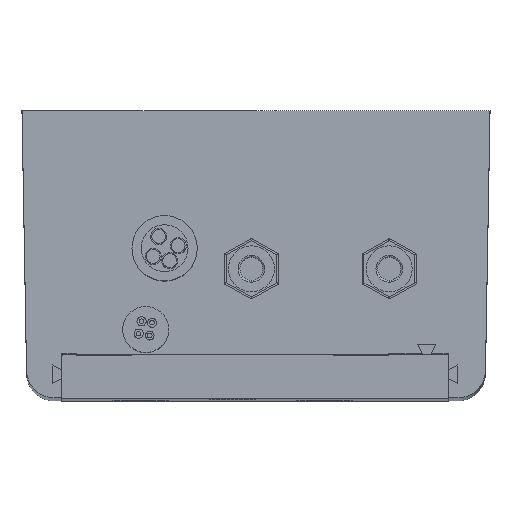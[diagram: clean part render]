
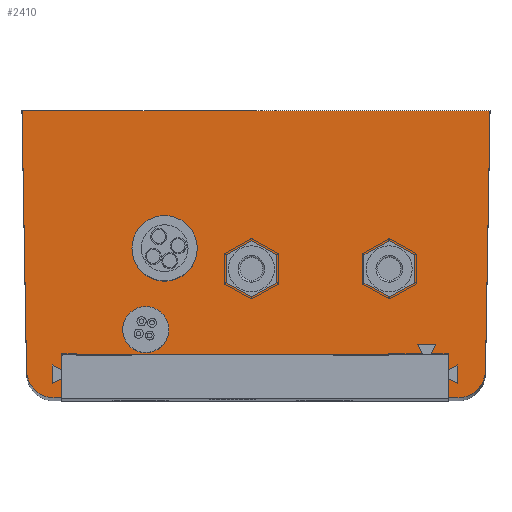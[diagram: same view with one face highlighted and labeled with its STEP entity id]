
A CAD part, top view. The second image highlights one B-rep face of the part: STEP entity #2410.
In plain terms, the highlighted planar face has unit normal (0, 0, 1).
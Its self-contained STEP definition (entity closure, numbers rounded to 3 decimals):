
#38 = VECTOR ( 'NONE', #9448, 1000. ) ;
#225 = EDGE_CURVE ( 'NONE', #5677, #5905, #685, .T. ) ;
#250 = DIRECTION ( 'NONE',  ( 1., 0., 0. ) ) ;
#341 = AXIS2_PLACEMENT_3D ( 'NONE', #7417, #2482, #1576 ) ;
#685 = CIRCLE ( 'NONE', #6017, 3. ) ;
#877 = VERTEX_POINT ( 'NONE', #2202 ) ;
#942 = VECTOR ( 'NONE', #4667, 1000. ) ;
#1166 = VERTEX_POINT ( 'NONE', #8055 ) ;
#1212 = VECTOR ( 'NONE', #5982, 1000. ) ;
#1361 = VECTOR ( 'NONE', #12371, 1000. ) ;
#1576 = DIRECTION ( 'NONE',  ( 1., 0., 0. ) ) ;
#1709 = AXIS2_PLACEMENT_3D ( 'NONE', #6570, #8424, #12338 ) ;
#1922 = DIRECTION ( 'NONE',  ( 1., 0., 0. ) ) ;
#2009 = LINE ( 'NONE', #10515, #942 ) ;
#2111 = VECTOR ( 'NONE', #250, 1000. ) ;
#2129 = EDGE_CURVE ( 'NONE', #8731, #1166, #11290, .T. ) ;
#2136 = AXIS2_PLACEMENT_3D ( 'NONE', #8527, #7619, #1922 ) ;
#2181 = EDGE_CURVE ( 'NONE', #5905, #877, #2009, .T. ) ;
#2202 = CARTESIAN_POINT ( 'NONE',  ( 26.025, 19.031, 0. ) ) ;
#2332 = EDGE_CURVE ( 'NONE', #5396, #10631, #12351, .T. ) ;
#2410 = ADVANCED_FACE ( 'NONE', ( #7919, #5937, #5630 ), #9229, .T. ) ;
#2461 = AXIS2_PLACEMENT_3D ( 'NONE', #6417, #7408, #11405 ) ;
#2466 = LINE ( 'NONE', #12342, #11287 ) ;
#2482 = DIRECTION ( 'NONE',  ( 0., 0., 1. ) ) ;
#2586 = EDGE_CURVE ( 'NONE', #9721, #8746, #6706, .T. ) ;
#2593 = LINE ( 'NONE', #7945, #1212 ) ;
#2689 = ORIENTED_EDGE ( 'NONE', *, *, #3208, .T. ) ;
#2743 = CIRCLE ( 'NONE', #2136, 2.5 ) ;
#2942 = CIRCLE ( 'NONE', #7848, 3. ) ;
#3069 = EDGE_CURVE ( 'NONE', #10631, #5396, #2743, .T. ) ;
#3208 = EDGE_CURVE ( 'NONE', #8731, #5677, #12031, .T. ) ;
#3298 = EDGE_LOOP ( 'NONE', ( #11944, #7912 ) ) ;
#3548 = CARTESIAN_POINT ( 'NONE',  ( -20.587, -7.469, 0. ) ) ;
#3604 = EDGE_CURVE ( 'NONE', #1166, #8220, #2593, .T. ) ;
#3792 = EDGE_CURVE ( 'NONE', #8746, #9721, #4678, .T. ) ;
#3812 = EDGE_CURVE ( 'NONE', #8220, #12471, #12160, .T. ) ;
#4144 = DIRECTION ( 'NONE',  ( 0., 0., 1. ) ) ;
#4271 = CARTESIAN_POINT ( 'NONE',  ( -24.406, -9.271, 0. ) ) ;
#4608 = CARTESIAN_POINT ( 'NONE',  ( -20.587, -12.219, 0. ) ) ;
#4667 = DIRECTION ( 'NONE',  ( 0.017, 1., 0. ) ) ;
#4678 = CIRCLE ( 'NONE', #2461, 2.5 ) ;
#4721 = CARTESIAN_POINT ( 'NONE',  ( -24.56, -0.429, 0. ) ) ;
#4929 = ORIENTED_EDGE ( 'NONE', *, *, #2181, .T. ) ;
#5064 = CARTESIAN_POINT ( 'NONE',  ( -24.437, -12.219, 0. ) ) ;
#5113 = VERTEX_POINT ( 'NONE', #5831 ) ;
#5396 = VERTEX_POINT ( 'NONE', #11252 ) ;
#5452 = CARTESIAN_POINT ( 'NONE',  ( 21.473, -12.219, 0. ) ) ;
#5534 = CARTESIAN_POINT ( 'NONE',  ( -24.437, -12.219, 0. ) ) ;
#5630 = FACE_OUTER_BOUND ( 'NONE', #7761, .T. ) ;
#5677 = VERTEX_POINT ( 'NONE', #11105 ) ;
#5713 = CARTESIAN_POINT ( 'NONE',  ( -21.406, -9.219, 0. ) ) ;
#5814 = CARTESIAN_POINT ( 'NONE',  ( 15.063, 1.831, 0. ) ) ;
#5831 = CARTESIAN_POINT ( 'NONE',  ( -21.406, -12.219, 0. ) ) ;
#5905 = VERTEX_POINT ( 'NONE', #12259 ) ;
#5937 = FACE_BOUND ( 'NONE', #3298, .T. ) ;
#5982 = DIRECTION ( 'NONE',  ( -1., 0., 0. ) ) ;
#6017 = AXIS2_PLACEMENT_3D ( 'NONE', #9827, #4144, #9872 ) ;
#6150 = EDGE_CURVE ( 'NONE', #6997, #5113, #2942, .T. ) ;
#6288 = ORIENTED_EDGE ( 'NONE', *, *, #2129, .F. ) ;
#6417 = CARTESIAN_POINT ( 'NONE',  ( 0.063, 1.831, 0. ) ) ;
#6516 = CARTESIAN_POINT ( 'NONE',  ( 21.473, -12.219, 0. ) ) ;
#6570 = CARTESIAN_POINT ( 'NONE',  ( 0.063, 1.831, 0. ) ) ;
#6706 = CIRCLE ( 'NONE', #1709, 2.5 ) ;
#6746 = DIRECTION ( 'NONE',  ( -1., 0., 0. ) ) ;
#6834 = CARTESIAN_POINT ( 'NONE',  ( -20.587, -12.219, 0. ) ) ;
#6997 = VERTEX_POINT ( 'NONE', #4271 ) ;
#7408 = DIRECTION ( 'NONE',  ( 0., 0., 1. ) ) ;
#7412 = ORIENTED_EDGE ( 'NONE', *, *, #2586, .F. ) ;
#7417 = CARTESIAN_POINT ( 'NONE',  ( 0., 0., 0. ) ) ;
#7436 = LINE ( 'NONE', #5064, #2111 ) ;
#7537 = EDGE_LOOP ( 'NONE', ( #7412, #8452 ) ) ;
#7619 = DIRECTION ( 'NONE',  ( 0., 0., 1. ) ) ;
#7726 = DIRECTION ( 'NONE',  ( 1., 0., 0. ) ) ;
#7746 = DIRECTION ( 'NONE',  ( 1., 0., 0. ) ) ;
#7761 = EDGE_LOOP ( 'NONE', ( #9502, #11304, #12551, #10340, #8004, #6288, #2689, #9658, #4929, #12434 ) ) ;
#7848 = AXIS2_PLACEMENT_3D ( 'NONE', #5713, #8715, #7726 ) ;
#7912 = ORIENTED_EDGE ( 'NONE', *, *, #3069, .F. ) ;
#7919 = FACE_BOUND ( 'NONE', #7537, .T. ) ;
#7945 = CARTESIAN_POINT ( 'NONE',  ( -20.587, -7.469, 0. ) ) ;
#8004 = ORIENTED_EDGE ( 'NONE', *, *, #3604, .F. ) ;
#8055 = CARTESIAN_POINT ( 'NONE',  ( 21.473, -7.469, 0. ) ) ;
#8077 = AXIS2_PLACEMENT_3D ( 'NONE', #5814, #8734, #7746 ) ;
#8220 = VERTEX_POINT ( 'NONE', #3548 ) ;
#8264 = EDGE_CURVE ( 'NONE', #877, #12147, #2466, .T. ) ;
#8424 = DIRECTION ( 'NONE',  ( 0., 0., 1. ) ) ;
#8452 = ORIENTED_EDGE ( 'NONE', *, *, #3792, .F. ) ;
#8527 = CARTESIAN_POINT ( 'NONE',  ( 15.063, 1.831, 0. ) ) ;
#8715 = DIRECTION ( 'NONE',  ( 0., 0., 1. ) ) ;
#8731 = VERTEX_POINT ( 'NONE', #5452 ) ;
#8734 = DIRECTION ( 'NONE',  ( 0., 0., 1. ) ) ;
#8746 = VERTEX_POINT ( 'NONE', #10362 ) ;
#8834 = CARTESIAN_POINT ( 'NONE',  ( 2.563, 1.831, 0. ) ) ;
#9229 = PLANE ( 'NONE',  #341 ) ;
#9448 = DIRECTION ( 'NONE',  ( 0., 1., 0. ) ) ;
#9502 = ORIENTED_EDGE ( 'NONE', *, *, #11317, .T. ) ;
#9517 = DIRECTION ( 'NONE',  ( 0., -1., 0. ) ) ;
#9658 = ORIENTED_EDGE ( 'NONE', *, *, #225, .T. ) ;
#9710 = VECTOR ( 'NONE', #9517, 1000. ) ;
#9721 = VERTEX_POINT ( 'NONE', #8834 ) ;
#9827 = CARTESIAN_POINT ( 'NONE',  ( 22.532, -9.219, 0. ) ) ;
#9872 = DIRECTION ( 'NONE',  ( 1., 0., 0. ) ) ;
#10340 = ORIENTED_EDGE ( 'NONE', *, *, #3812, .F. ) ;
#10362 = CARTESIAN_POINT ( 'NONE',  ( -2.437, 1.831, 0. ) ) ;
#10515 = CARTESIAN_POINT ( 'NONE',  ( 25.685, -0.448, 0. ) ) ;
#10631 = VERTEX_POINT ( 'NONE', #12484 ) ;
#10767 = LINE ( 'NONE', #4721, #11225 ) ;
#10952 = EDGE_CURVE ( 'NONE', #5113, #12471, #7436, .T. ) ;
#11105 = CARTESIAN_POINT ( 'NONE',  ( 22.532, -12.219, 0. ) ) ;
#11225 = VECTOR ( 'NONE', #11729, 1000. ) ;
#11252 = CARTESIAN_POINT ( 'NONE',  ( 17.563, 1.831, 0. ) ) ;
#11287 = VECTOR ( 'NONE', #6746, 1000. ) ;
#11290 = LINE ( 'NONE', #6516, #38 ) ;
#11304 = ORIENTED_EDGE ( 'NONE', *, *, #6150, .T. ) ;
#11317 = EDGE_CURVE ( 'NONE', #12147, #6997, #10767, .T. ) ;
#11405 = DIRECTION ( 'NONE',  ( 1., 0., 0. ) ) ;
#11729 = DIRECTION ( 'NONE',  ( 0.017, -1., 0. ) ) ;
#11944 = ORIENTED_EDGE ( 'NONE', *, *, #2332, .F. ) ;
#12031 = LINE ( 'NONE', #5534, #1361 ) ;
#12073 = CARTESIAN_POINT ( 'NONE',  ( -24.9, 19.031, 0. ) ) ;
#12147 = VERTEX_POINT ( 'NONE', #12073 ) ;
#12160 = LINE ( 'NONE', #4608, #9710 ) ;
#12259 = CARTESIAN_POINT ( 'NONE',  ( 25.531, -9.271, 0. ) ) ;
#12338 = DIRECTION ( 'NONE',  ( 1., 0., 0. ) ) ;
#12342 = CARTESIAN_POINT ( 'NONE',  ( -24.437, 19.031, 0. ) ) ;
#12351 = CIRCLE ( 'NONE', #8077, 2.5 ) ;
#12371 = DIRECTION ( 'NONE',  ( 1., 0., 0. ) ) ;
#12434 = ORIENTED_EDGE ( 'NONE', *, *, #8264, .T. ) ;
#12471 = VERTEX_POINT ( 'NONE', #6834 ) ;
#12484 = CARTESIAN_POINT ( 'NONE',  ( 12.563, 1.831, 0. ) ) ;
#12551 = ORIENTED_EDGE ( 'NONE', *, *, #10952, .T. ) ;
